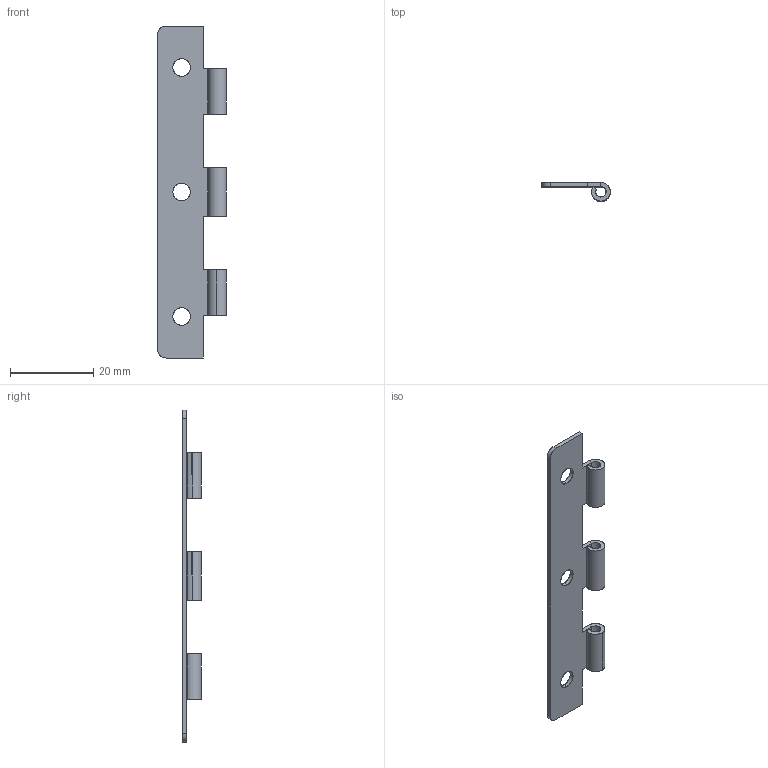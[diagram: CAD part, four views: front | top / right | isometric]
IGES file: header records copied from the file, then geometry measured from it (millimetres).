
Start section: SolidWorks IGES file using analytic representation for surfaces
Global section: file name: Z:\Mes documents\ATAO iges\Gamme CC\CC 473\473.020.10.IGS; native system: SolidWorks 2008; preprocessor: SolidWorks 2008; author: cbrechard; date: 110629.090046; units: millimetre
Bounding box: 16.5 x 4.5 x 80 mm (x, y, z)
Surface area: 2809.4 mm2 (no closed solid volume)
Topology: 0 solids, 0 shells, 48 faces, 732 edges, 732 vertices
Faces by surface type: revolution 24, bspline 24
